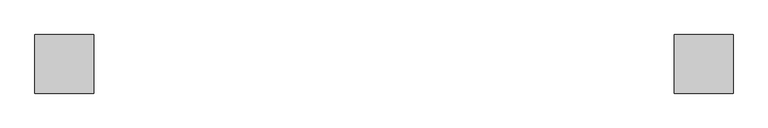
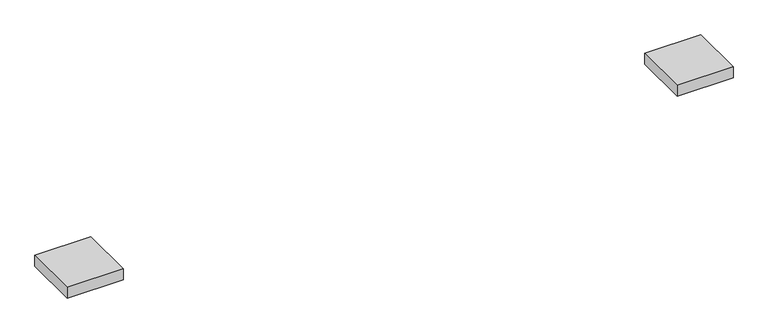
"""IFC4 building model written with IfcOpenShell, lengths in millimetres: proxy geometry, Calzo termoplastico : Calzo termoplastico."""

from ifc_helpers import new_model, si_unit, origin, origin_with_axes, place, context, project, spatial, polyline, outline, extrude, source, transform, mapped, element, save


def generic_models_ea33af44(model_context):
    return source(origin(), model_context, "Body", "SweptSolid", [
        extrude(outline(polyline([(6507.7202663, 14814.5302953), (6507.7202663, 14914.5302953), (6607.7202663, 14914.5302953), (6607.7202663, 14814.5302953), (6507.7202663, 14814.5302953)])), origin_with_axes(), (0.0, 0.0, 1.0), 20.0),
        extrude(outline(polyline([(7598.5737202, 14814.5302953), (7598.5737202, 14914.5302953), (7698.5737202, 14914.5302953), (7698.5737202, 14814.5302953), (7598.5737202, 14814.5302953)])), origin_with_axes(), (0.0, 0.0, 1.0), 20.0),
    ])


if __name__ == "__main__":
    model = new_model("IFC4")
    model_context = context("Model", 3, world=origin())
    ifc_project = project(units=[si_unit("LENGTHUNIT", "METRE", prefix="MILLI")], contexts=[model_context])
    site = spatial("IfcSite", under=ifc_project)
    building = spatial("IfcBuilding", under=site)
    placement = place(None, origin())
    generic_models_shape = generic_models_ea33af44(model_context)
    element("IfcBuildingElementProxy", 1, Name="Calzo termoplastico : Calzo termoplastico", ObjectType="Calzo termoplastico : Calzo termoplastico", at=placement, inside=building, context=model_context, shape_type="MappedRepresentation", body=[
        mapped(generic_models_shape, transform((0.0, 0.0, 0.0), x_axis=(1.0, 0.0, 0.0), y_axis=(0.0, 1.0, 0.0), z_axis=(0.0, 0.0, 1.0))),
    ])
    save(model, "model.ifc")
